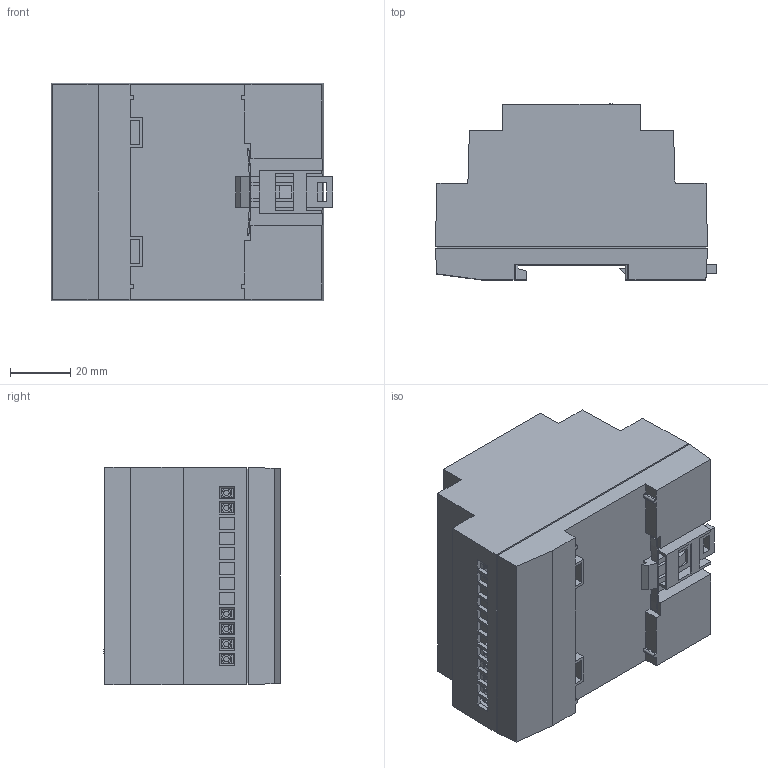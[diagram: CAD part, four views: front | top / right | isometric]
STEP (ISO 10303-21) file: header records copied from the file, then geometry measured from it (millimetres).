
FILE_DESCRIPTION (( 'STEP AP214' ), '1' );
FILE_NAME ('3D Ìîäåëü ÁÏ60Á-Ä4.STEP', '2015-08-11T12:27:25', ( '' ), ( '' ), 'SwSTEP 2.0', 'SolidWorks 2013', '' );
FILE_SCHEMA (( 'AUTOMOTIVE_DESIGN' ));
Length unit declared in the file: millimetre
Products named in the file (7): Çàùåëêà(Ä); Êëåììà íèçêàÿ_11õ8õ5ìì; 3D Ìîäåëü ÁÏ60Á-Ä4; ðåãóëÿòîð; ﾈ淸韭瑣ⅱ; 椯鴀殣罻; Êîðïóñ Ä4
Assembly tree (11 placements, depth 2):
  3D Ìîäåëü ÁÏ60Á-Ä4
    Êëåììà íèçêàÿ_11õ8õ5ìì  x6
    Çàùåëêà(Ä)
    Êîðïóñ Ä4
    椯鴀殣罻
    ﾈ淸韭瑣ⅱ
    ðåãóëÿòîð
Bounding box: 93 x 58.3 x 72 mm (x, y, z)
Volume: 222688.7 mm3; surface area: 54292.1 mm2
Topology: 11 solids, 11 shells, 1166 faces, 3085 edges, 2047 vertices
Faces by surface type: plane 901, cylinder 135, bspline 126, sphere 4
Entity records: 40969 total; most frequent: CARTESIAN_POINT 9856, ORIENTED_EDGE 5130, DIRECTION 4205, EDGE_CURVE 2565, VECTOR 2109, LINE 2109, VERTEX_POINT 1707, EDGE_LOOP 1146
